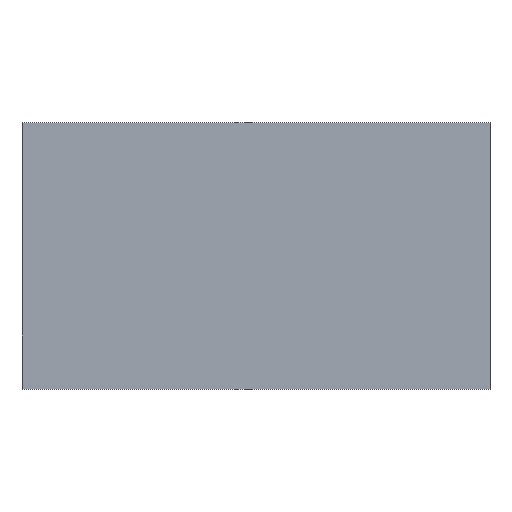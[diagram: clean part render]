
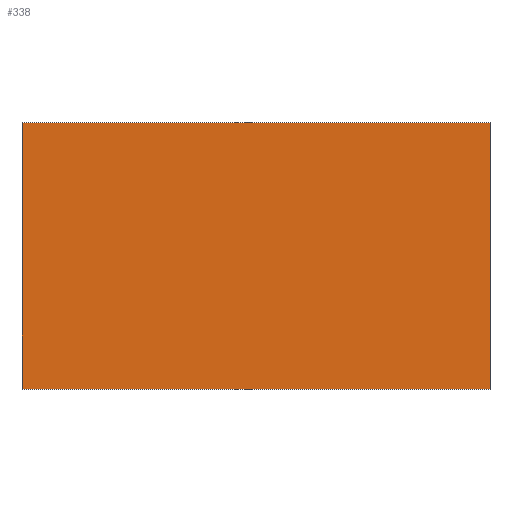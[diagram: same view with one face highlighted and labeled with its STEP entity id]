
A CAD part, top view. The second image highlights one B-rep face of the part: STEP entity #338.
In plain terms, the highlighted planar face has unit normal (0, 0, 1).
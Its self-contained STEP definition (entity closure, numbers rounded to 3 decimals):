
#24 = VERTEX_POINT('',#25);
#25 = CARTESIAN_POINT('',(562.5,-18.5,-15.));
#32 = PLANE('',#33);
#33 = AXIS2_PLACEMENT_3D('',#34,#35,#36);
#34 = CARTESIAN_POINT('',(562.5,-18.5,-34.));
#35 = DIRECTION('',(1.,0.,0.));
#36 = DIRECTION('',(0.,0.,1.));
#44 = PLANE('',#45);
#45 = AXIS2_PLACEMENT_3D('',#46,#47,#48);
#46 = CARTESIAN_POINT('',(562.5,-18.5,-34.));
#47 = DIRECTION('',(0.,1.,0.));
#48 = DIRECTION('',(0.,0.,1.));
#85 = VERTEX_POINT('',#86);
#86 = CARTESIAN_POINT('',(562.5,18.5,-15.));
#100 = PLANE('',#101);
#101 = AXIS2_PLACEMENT_3D('',#102,#103,#104);
#102 = CARTESIAN_POINT('',(562.5,18.5,-34.));
#103 = DIRECTION('',(0.,1.,0.));
#104 = DIRECTION('',(0.,0.,1.));
#112 = EDGE_CURVE('',#24,#85,#113,.T.);
#113 = SURFACE_CURVE('',#114,(#118,#125),.PCURVE_S1.);
#114 = LINE('',#115,#116);
#115 = CARTESIAN_POINT('',(562.5,-18.5,-15.));
#116 = VECTOR('',#117,1.);
#117 = DIRECTION('',(0.,1.,0.));
#118 = PCURVE('',#32,#119);
#119 = DEFINITIONAL_REPRESENTATION('',(#120),#124);
#120 = LINE('',#121,#122);
#121 = CARTESIAN_POINT('',(19.,0.));
#122 = VECTOR('',#123,1.);
#123 = DIRECTION('',(0.,-1.));
#124 = ( GEOMETRIC_REPRESENTATION_CONTEXT(2) 
PARAMETRIC_REPRESENTATION_CONTEXT() REPRESENTATION_CONTEXT('2D SPACE',''
  ) );
#125 = PCURVE('',#126,#131);
#126 = PLANE('',#127);
#127 = AXIS2_PLACEMENT_3D('',#128,#129,#130);
#128 = CARTESIAN_POINT('',(562.5,-18.5,-15.));
#129 = DIRECTION('',(0.,0.,1.));
#130 = DIRECTION('',(1.,0.,0.));
#131 = DEFINITIONAL_REPRESENTATION('',(#132),#136);
#132 = LINE('',#133,#134);
#133 = CARTESIAN_POINT('',(0.,0.));
#134 = VECTOR('',#135,1.);
#135 = DIRECTION('',(0.,1.));
#136 = ( GEOMETRIC_REPRESENTATION_CONTEXT(2) 
PARAMETRIC_REPRESENTATION_CONTEXT() REPRESENTATION_CONTEXT('2D SPACE',''
  ) );
#144 = VERTEX_POINT('',#145);
#145 = CARTESIAN_POINT('',(627.5,-18.5,-15.));
#152 = PLANE('',#153);
#153 = AXIS2_PLACEMENT_3D('',#154,#155,#156);
#154 = CARTESIAN_POINT('',(627.5,-18.5,-34.));
#155 = DIRECTION('',(1.,0.,0.));
#156 = DIRECTION('',(0.,0.,1.));
#195 = VERTEX_POINT('',#196);
#196 = CARTESIAN_POINT('',(627.5,18.5,-15.));
#217 = EDGE_CURVE('',#144,#195,#218,.T.);
#218 = SURFACE_CURVE('',#219,(#223,#230),.PCURVE_S1.);
#219 = LINE('',#220,#221);
#220 = CARTESIAN_POINT('',(627.5,-18.5,-15.));
#221 = VECTOR('',#222,1.);
#222 = DIRECTION('',(0.,1.,0.));
#223 = PCURVE('',#152,#224);
#224 = DEFINITIONAL_REPRESENTATION('',(#225),#229);
#225 = LINE('',#226,#227);
#226 = CARTESIAN_POINT('',(19.,0.));
#227 = VECTOR('',#228,1.);
#228 = DIRECTION('',(0.,-1.));
#229 = ( GEOMETRIC_REPRESENTATION_CONTEXT(2) 
PARAMETRIC_REPRESENTATION_CONTEXT() REPRESENTATION_CONTEXT('2D SPACE',''
  ) );
#230 = PCURVE('',#126,#231);
#231 = DEFINITIONAL_REPRESENTATION('',(#232),#236);
#232 = LINE('',#233,#234);
#233 = CARTESIAN_POINT('',(65.,0.));
#234 = VECTOR('',#235,1.);
#235 = DIRECTION('',(0.,1.));
#236 = ( GEOMETRIC_REPRESENTATION_CONTEXT(2) 
PARAMETRIC_REPRESENTATION_CONTEXT() REPRESENTATION_CONTEXT('2D SPACE',''
  ) );
#263 = EDGE_CURVE('',#24,#144,#264,.T.);
#264 = SURFACE_CURVE('',#265,(#269,#276),.PCURVE_S1.);
#265 = LINE('',#266,#267);
#266 = CARTESIAN_POINT('',(562.5,-18.5,-15.));
#267 = VECTOR('',#268,1.);
#268 = DIRECTION('',(1.,0.,0.));
#269 = PCURVE('',#44,#270);
#270 = DEFINITIONAL_REPRESENTATION('',(#271),#275);
#271 = LINE('',#272,#273);
#272 = CARTESIAN_POINT('',(19.,0.));
#273 = VECTOR('',#274,1.);
#274 = DIRECTION('',(0.,1.));
#275 = ( GEOMETRIC_REPRESENTATION_CONTEXT(2) 
PARAMETRIC_REPRESENTATION_CONTEXT() REPRESENTATION_CONTEXT('2D SPACE',''
  ) );
#276 = PCURVE('',#126,#277);
#277 = DEFINITIONAL_REPRESENTATION('',(#278),#282);
#278 = LINE('',#279,#280);
#279 = CARTESIAN_POINT('',(0.,0.));
#280 = VECTOR('',#281,1.);
#281 = DIRECTION('',(1.,0.));
#282 = ( GEOMETRIC_REPRESENTATION_CONTEXT(2) 
PARAMETRIC_REPRESENTATION_CONTEXT() REPRESENTATION_CONTEXT('2D SPACE',''
  ) );
#310 = EDGE_CURVE('',#85,#195,#311,.T.);
#311 = SURFACE_CURVE('',#312,(#316,#323),.PCURVE_S1.);
#312 = LINE('',#313,#314);
#313 = CARTESIAN_POINT('',(562.5,18.5,-15.));
#314 = VECTOR('',#315,1.);
#315 = DIRECTION('',(1.,0.,0.));
#316 = PCURVE('',#100,#317);
#317 = DEFINITIONAL_REPRESENTATION('',(#318),#322);
#318 = LINE('',#319,#320);
#319 = CARTESIAN_POINT('',(19.,0.));
#320 = VECTOR('',#321,1.);
#321 = DIRECTION('',(0.,1.));
#322 = ( GEOMETRIC_REPRESENTATION_CONTEXT(2) 
PARAMETRIC_REPRESENTATION_CONTEXT() REPRESENTATION_CONTEXT('2D SPACE',''
  ) );
#323 = PCURVE('',#126,#324);
#324 = DEFINITIONAL_REPRESENTATION('',(#325),#329);
#325 = LINE('',#326,#327);
#326 = CARTESIAN_POINT('',(0.,37.));
#327 = VECTOR('',#328,1.);
#328 = DIRECTION('',(1.,0.));
#329 = ( GEOMETRIC_REPRESENTATION_CONTEXT(2) 
PARAMETRIC_REPRESENTATION_CONTEXT() REPRESENTATION_CONTEXT('2D SPACE',''
  ) );
#338 = ADVANCED_FACE('',(#339),#126,.T.);
#339 = FACE_BOUND('',#340,.T.);
#340 = EDGE_LOOP('',(#341,#342,#343,#344));
#341 = ORIENTED_EDGE('',*,*,#112,.F.);
#342 = ORIENTED_EDGE('',*,*,#263,.T.);
#343 = ORIENTED_EDGE('',*,*,#217,.T.);
#344 = ORIENTED_EDGE('',*,*,#310,.F.);
